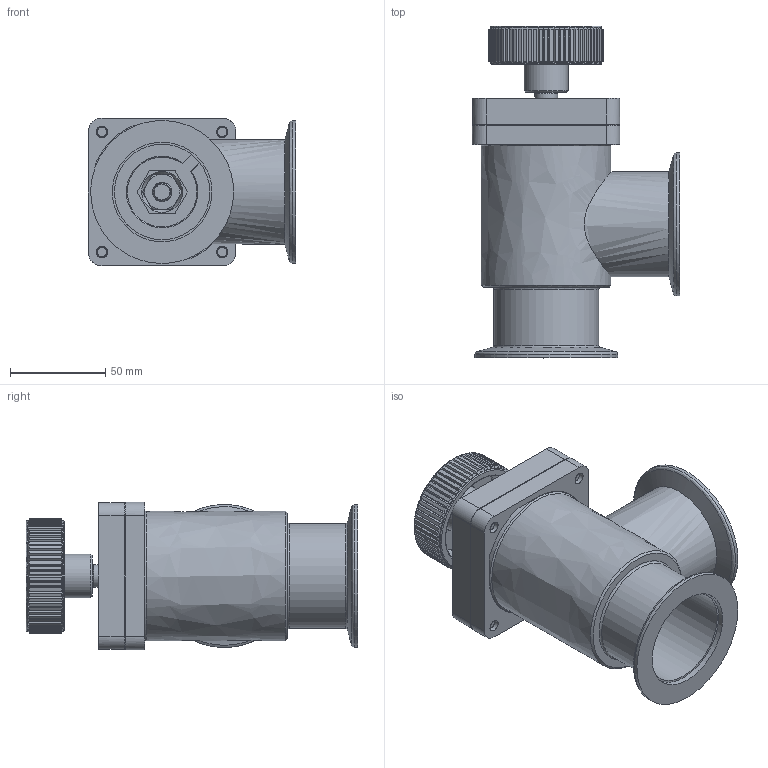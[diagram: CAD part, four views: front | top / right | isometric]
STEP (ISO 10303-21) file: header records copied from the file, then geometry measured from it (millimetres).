
FILE_DESCRIPTION((''),'2;1');
FILE_NAME('C:\TEMP\IDEAS\322346.stp','2006-09-19T16:14:59',('User'),( 'SDRC'),'I-DEAS Master Series 9','UNIX','Yes');
FILE_SCHEMA(('CONFIG_CONTROL_DESIGN'));
Length unit declared in the file: millimetre
Assembly tree (17 placements, depth 0):
Bounding box: 108.7 x 173.87 x 77.4 mm (x, y, z)
Volume: 241173.9 mm3; surface area: 137430.2 mm2
Topology: 23 solids, 23 shells, 768 faces, 1766 edges, 1106 vertices
Faces by surface type: bspline 768
Entity records: 25569 total; most frequent: CARTESIAN_POINT 14180, ORIENTED_EDGE 3234, EDGE_CURVE 1617, VERTEX_POINT 963, EDGE_LOOP 774, FACE_OUTER_BOUND 711, ADVANCED_FACE 711, QUASI_UNIFORM_CURVE 607
